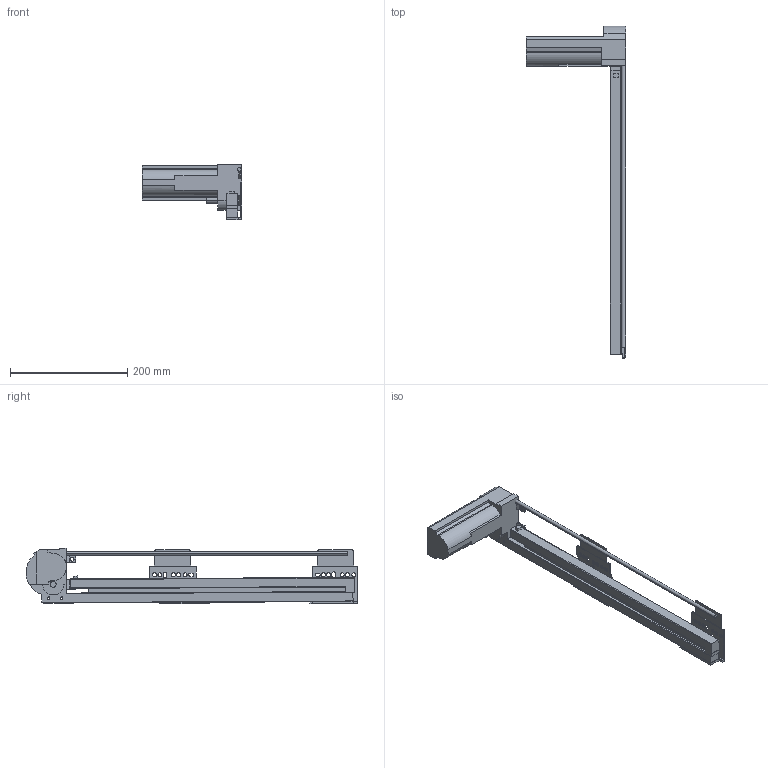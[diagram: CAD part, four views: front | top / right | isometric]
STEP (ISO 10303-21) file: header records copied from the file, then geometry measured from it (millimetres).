
FILE_DESCRIPTION (( 'STEP AP214' ), '1' );
FILE_NAME ('_IMOS_NOVA-Pro_Sensotronic_KS_P907_RE_NL-500_EB29mm.step', '2010-07-23T08:20:00', ( 'grass' ), ( '' ), 'SwSTEP 2.0', 'SolidWorks 2009', '' );
FILE_SCHEMA (( 'AUTOMOTIVE_DESIGN' ));
Length unit declared in the file: millimetre
Products named in the file (1): _IMOS_NOVA-Pro_Sensotronic_KS_P907_RE_NL-500_EB29mm
Bounding box: 169.95 x 566.51 x 94.78 mm (x, y, z)
Volume: 874367.1 mm3; surface area: 164372 mm2
Topology: 3 solids, 3 shells, 194 faces, 554 edges, 368 vertices
Faces by surface type: plane 119, cylinder 75
Entity records: 6477 total; most frequent: CARTESIAN_POINT 1129, ORIENTED_EDGE 1108, DIRECTION 1095, EDGE_CURVE 554, LINE 395, VECTOR 395, VERTEX_POINT 368, AXIS2_PLACEMENT_3D 350
